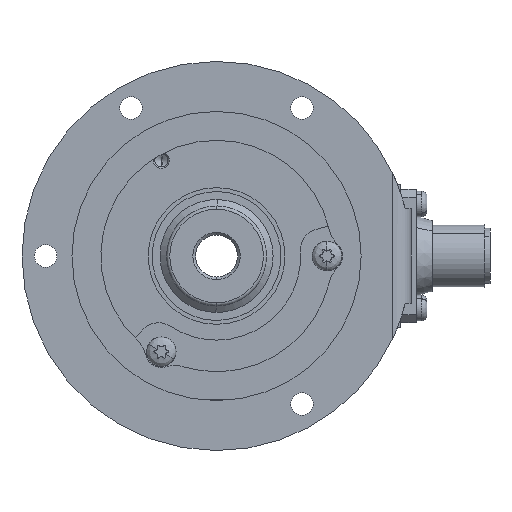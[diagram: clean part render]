
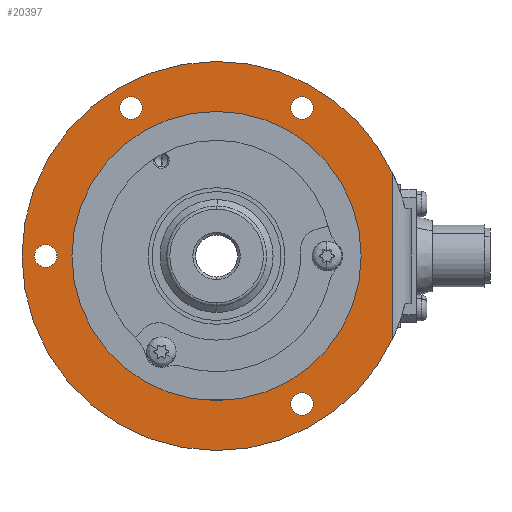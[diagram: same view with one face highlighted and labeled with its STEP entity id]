
A CAD part, left-side view. The second image highlights one B-rep face of the part: STEP entity #20397.
In plain terms, the highlighted planar face has unit normal (-1, 0, 0).
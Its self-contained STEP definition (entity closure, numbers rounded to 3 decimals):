
#412 = CARTESIAN_POINT ( 'NONE',  ( -19.622, 9.173, 25.996 ) ) ;
#490 = CARTESIAN_POINT ( 'NONE',  ( -19.622, 57.923, 2.15 ) ) ;
#557 = AXIS2_PLACEMENT_3D ( 'NONE', #5272, #17941, #14074 ) ;
#612 = ORIENTED_EDGE ( 'NONE', *, *, #12605, .F. ) ;
#688 = CARTESIAN_POINT ( 'NONE',  ( -19.622, 25.423, 0. ) ) ;
#731 = CARTESIAN_POINT ( 'NONE',  ( -19.622, 25.423, 0. ) ) ;
#739 = CARTESIAN_POINT ( 'NONE',  ( -19.622, 25.423, 37. ) ) ;
#853 = CARTESIAN_POINT ( 'NONE',  ( -19.622, 25.423, -27.5 ) ) ;
#1884 = CARTESIAN_POINT ( 'NONE',  ( -19.622, -8.077, 9. ) ) ;
#1924 = ORIENTED_EDGE ( 'NONE', *, *, #19749, .F. ) ;
#1943 = EDGE_CURVE ( 'NONE', #6601, #3799, #4713, .T. ) ;
#2456 = DIRECTION ( 'NONE',  ( -1., 0., 0. ) ) ;
#2539 = DIRECTION ( 'NONE',  ( -1., 0., 0. ) ) ;
#2759 = CIRCLE ( 'NONE', #15122, 2.15 ) ;
#2796 = AXIS2_PLACEMENT_3D ( 'NONE', #12795, #16784, #18195 ) ;
#2926 = DIRECTION ( 'NONE',  ( -1., 0., 0. ) ) ;
#2969 = DIRECTION ( 'NONE',  ( 0., 0., -1. ) ) ;
#3465 = CIRCLE ( 'NONE', #6478, 2.15 ) ;
#3677 = AXIS2_PLACEMENT_3D ( 'NONE', #731, #20147, #13144 ) ;
#3799 = VERTEX_POINT ( 'NONE', #739 ) ;
#3917 = EDGE_LOOP ( 'NONE', ( #8049, #17698 ) ) ;
#4309 = EDGE_CURVE ( 'NONE', #15364, #15909, #10750, .T. ) ;
#4330 = DIRECTION ( 'NONE',  ( -1., 0., 0. ) ) ;
#4334 = DIRECTION ( 'NONE',  ( -1., 0., 0. ) ) ;
#4643 = AXIS2_PLACEMENT_3D ( 'NONE', #18775, #16799, #22045 ) ;
#4685 = CARTESIAN_POINT ( 'NONE',  ( -19.622, 9.173, -28.146 ) ) ;
#4713 = CIRCLE ( 'NONE', #20771, 37. ) ;
#4888 = ORIENTED_EDGE ( 'NONE', *, *, #11713, .T. ) ;
#4965 = CIRCLE ( 'NONE', #8696, 2.15 ) ;
#5015 = CARTESIAN_POINT ( 'NONE',  ( -19.622, 41.673, 28.146 ) ) ;
#5163 = LINE ( 'NONE', #1884, #10855 ) ;
#5264 = EDGE_CURVE ( 'NONE', #8055, #9024, #17173, .T. ) ;
#5272 = CARTESIAN_POINT ( 'NONE',  ( -19.622, 25.423, 0. ) ) ;
#5337 = CARTESIAN_POINT ( 'NONE',  ( -19.622, 9.173, 28.146 ) ) ;
#5717 = EDGE_CURVE ( 'NONE', #10663, #13949, #18073, .T. ) ;
#5753 = CIRCLE ( 'NONE', #4643, 27.5 ) ;
#5754 = ORIENTED_EDGE ( 'NONE', *, *, #19891, .F. ) ;
#5995 = CARTESIAN_POINT ( 'NONE',  ( -19.622, -8.077, 15.708 ) ) ;
#6115 = VERTEX_POINT ( 'NONE', #15879 ) ;
#6183 = PLANE ( 'NONE',  #9101 ) ;
#6478 = AXIS2_PLACEMENT_3D ( 'NONE', #5337, #9094, #12958 ) ;
#6512 = EDGE_LOOP ( 'NONE', ( #13761, #11058 ) ) ;
#6549 = DIRECTION ( 'NONE',  ( -1., 0., 0. ) ) ;
#6601 = VERTEX_POINT ( 'NONE', #5995 ) ;
#6623 = EDGE_CURVE ( 'NONE', #15909, #15364, #7659, .T. ) ;
#6637 = ORIENTED_EDGE ( 'NONE', *, *, #20749, .F. ) ;
#6703 = ORIENTED_EDGE ( 'NONE', *, *, #5264, .F. ) ;
#7040 = CARTESIAN_POINT ( 'NONE',  ( -19.622, 57.923, 0. ) ) ;
#7188 = CARTESIAN_POINT ( 'NONE',  ( -19.622, 57.923, 0. ) ) ;
#7592 = EDGE_CURVE ( 'NONE', #6115, #18664, #15885, .T. ) ;
#7659 = CIRCLE ( 'NONE', #2796, 2.15 ) ;
#7923 = EDGE_CURVE ( 'NONE', #12428, #10115, #20084, .T. ) ;
#8049 = ORIENTED_EDGE ( 'NONE', *, *, #7592, .F. ) ;
#8055 = VERTEX_POINT ( 'NONE', #23042 ) ;
#8066 = FACE_BOUND ( 'NONE', #20409, .T. ) ;
#8370 = CARTESIAN_POINT ( 'NONE',  ( -19.622, 9.173, 30.296 ) ) ;
#8696 = AXIS2_PLACEMENT_3D ( 'NONE', #20018, #2456, #12659 ) ;
#8823 = DIRECTION ( 'NONE',  ( 0., 0., -1. ) ) ;
#8886 = AXIS2_PLACEMENT_3D ( 'NONE', #4685, #4330, #22356 ) ;
#9024 = VERTEX_POINT ( 'NONE', #490 ) ;
#9094 = DIRECTION ( 'NONE',  ( -1., 0., 0. ) ) ;
#9101 = AXIS2_PLACEMENT_3D ( 'NONE', #688, #2539, #22448 ) ;
#9509 = CARTESIAN_POINT ( 'NONE',  ( -19.622, 9.173, -30.296 ) ) ;
#9587 = FACE_OUTER_BOUND ( 'NONE', #11868, .T. ) ;
#9974 = ORIENTED_EDGE ( 'NONE', *, *, #7923, .F. ) ;
#10115 = VERTEX_POINT ( 'NONE', #9509 ) ;
#10663 = VERTEX_POINT ( 'NONE', #13228 ) ;
#10750 = CIRCLE ( 'NONE', #17462, 2.15 ) ;
#10855 = VECTOR ( 'NONE', #16068, 1000. ) ;
#11058 = ORIENTED_EDGE ( 'NONE', *, *, #4309, .F. ) ;
#11242 = VERTEX_POINT ( 'NONE', #412 ) ;
#11581 = FACE_BOUND ( 'NONE', #14553, .T. ) ;
#11608 = DIRECTION ( 'NONE',  ( 0., 0., -1. ) ) ;
#11713 = EDGE_CURVE ( 'NONE', #3799, #10663, #14929, .T. ) ;
#11735 = CARTESIAN_POINT ( 'NONE',  ( -19.622, 25.423, 0. ) ) ;
#11782 = DIRECTION ( 'NONE',  ( -1., 0., 0. ) ) ;
#11868 = EDGE_LOOP ( 'NONE', ( #20700, #4888, #15618, #12555 ) ) ;
#12171 = DIRECTION ( 'NONE',  ( 0., 0., -1. ) ) ;
#12428 = VERTEX_POINT ( 'NONE', #15114 ) ;
#12555 = ORIENTED_EDGE ( 'NONE', *, *, #14512, .T. ) ;
#12605 = EDGE_CURVE ( 'NONE', #11242, #20982, #19057, .T. ) ;
#12659 = DIRECTION ( 'NONE',  ( 0., 0., -1. ) ) ;
#12795 = CARTESIAN_POINT ( 'NONE',  ( -19.622, 41.673, 28.146 ) ) ;
#12958 = DIRECTION ( 'NONE',  ( 0., 0., -1. ) ) ;
#13144 = DIRECTION ( 'NONE',  ( 0., 0., -1. ) ) ;
#13228 = CARTESIAN_POINT ( 'NONE',  ( -19.622, 25.423, -37. ) ) ;
#13377 = DIRECTION ( 'NONE',  ( 0., 0., -1. ) ) ;
#13702 = DIRECTION ( 'NONE',  ( 0., 0., -1. ) ) ;
#13761 = ORIENTED_EDGE ( 'NONE', *, *, #6623, .F. ) ;
#13790 = CARTESIAN_POINT ( 'NONE',  ( -19.622, -8.077, -15.708 ) ) ;
#13949 = VERTEX_POINT ( 'NONE', #13790 ) ;
#14074 = DIRECTION ( 'NONE',  ( 0., 0., -1. ) ) ;
#14512 = EDGE_CURVE ( 'NONE', #13949, #6601, #5163, .T. ) ;
#14553 = EDGE_LOOP ( 'NONE', ( #9974, #5754 ) ) ;
#14929 = CIRCLE ( 'NONE', #3677, 37. ) ;
#15114 = CARTESIAN_POINT ( 'NONE',  ( -19.622, 9.173, -25.996 ) ) ;
#15122 = AXIS2_PLACEMENT_3D ( 'NONE', #7040, #11782, #2969 ) ;
#15364 = VERTEX_POINT ( 'NONE', #17240 ) ;
#15618 = ORIENTED_EDGE ( 'NONE', *, *, #5717, .T. ) ;
#15736 = DIRECTION ( 'NONE',  ( -1., 0., 0. ) ) ;
#15879 = CARTESIAN_POINT ( 'NONE',  ( -19.622, 25.423, 27.5 ) ) ;
#15885 = CIRCLE ( 'NONE', #557, 27.5 ) ;
#15909 = VERTEX_POINT ( 'NONE', #16103 ) ;
#16027 = DIRECTION ( 'NONE',  ( -1., 0., 0. ) ) ;
#16068 = DIRECTION ( 'NONE',  ( 0., 0., 1. ) ) ;
#16103 = CARTESIAN_POINT ( 'NONE',  ( -19.622, 41.673, 30.296 ) ) ;
#16420 = AXIS2_PLACEMENT_3D ( 'NONE', #7188, #15736, #8823 ) ;
#16735 = FACE_BOUND ( 'NONE', #22090, .T. ) ;
#16784 = DIRECTION ( 'NONE',  ( -1., 0., 0. ) ) ;
#16799 = DIRECTION ( 'NONE',  ( -1., 0., 0. ) ) ;
#17110 = CARTESIAN_POINT ( 'NONE',  ( -19.622, 25.423, 0. ) ) ;
#17173 = CIRCLE ( 'NONE', #16420, 2.15 ) ;
#17240 = CARTESIAN_POINT ( 'NONE',  ( -19.622, 41.673, 25.996 ) ) ;
#17462 = AXIS2_PLACEMENT_3D ( 'NONE', #5015, #6549, #13702 ) ;
#17698 = ORIENTED_EDGE ( 'NONE', *, *, #21611, .F. ) ;
#17941 = DIRECTION ( 'NONE',  ( -1., 0., 0. ) ) ;
#18073 = CIRCLE ( 'NONE', #21032, 37. ) ;
#18195 = DIRECTION ( 'NONE',  ( 0., 0., -1. ) ) ;
#18664 = VERTEX_POINT ( 'NONE', #853 ) ;
#18775 = CARTESIAN_POINT ( 'NONE',  ( -19.622, 25.423, 0. ) ) ;
#19057 = CIRCLE ( 'NONE', #22041, 2.15 ) ;
#19749 = EDGE_CURVE ( 'NONE', #9024, #8055, #2759, .T. ) ;
#19891 = EDGE_CURVE ( 'NONE', #10115, #12428, #4965, .T. ) ;
#20018 = CARTESIAN_POINT ( 'NONE',  ( -19.622, 9.173, -28.146 ) ) ;
#20084 = CIRCLE ( 'NONE', #8886, 2.15 ) ;
#20147 = DIRECTION ( 'NONE',  ( -1., 0., 0. ) ) ;
#20397 = ADVANCED_FACE ( 'NONE', ( #8066, #11581, #9587, #22218, #16735, #22332 ), #6183, .T. ) ;
#20409 = EDGE_LOOP ( 'NONE', ( #1924, #6703 ) ) ;
#20700 = ORIENTED_EDGE ( 'NONE', *, *, #1943, .T. ) ;
#20749 = EDGE_CURVE ( 'NONE', #20982, #11242, #3465, .T. ) ;
#20771 = AXIS2_PLACEMENT_3D ( 'NONE', #17110, #4334, #11608 ) ;
#20982 = VERTEX_POINT ( 'NONE', #8370 ) ;
#21032 = AXIS2_PLACEMENT_3D ( 'NONE', #11735, #2926, #13377 ) ;
#21611 = EDGE_CURVE ( 'NONE', #18664, #6115, #5753, .T. ) ;
#22041 = AXIS2_PLACEMENT_3D ( 'NONE', #23035, #16027, #12171 ) ;
#22045 = DIRECTION ( 'NONE',  ( 0., 0., -1. ) ) ;
#22090 = EDGE_LOOP ( 'NONE', ( #6637, #612 ) ) ;
#22218 = FACE_BOUND ( 'NONE', #3917, .T. ) ;
#22332 = FACE_BOUND ( 'NONE', #6512, .T. ) ;
#22356 = DIRECTION ( 'NONE',  ( 0., 0., -1. ) ) ;
#22448 = DIRECTION ( 'NONE',  ( 0., 0., -1. ) ) ;
#23035 = CARTESIAN_POINT ( 'NONE',  ( -19.622, 9.173, 28.146 ) ) ;
#23042 = CARTESIAN_POINT ( 'NONE',  ( -19.622, 57.923, -2.15 ) ) ;
